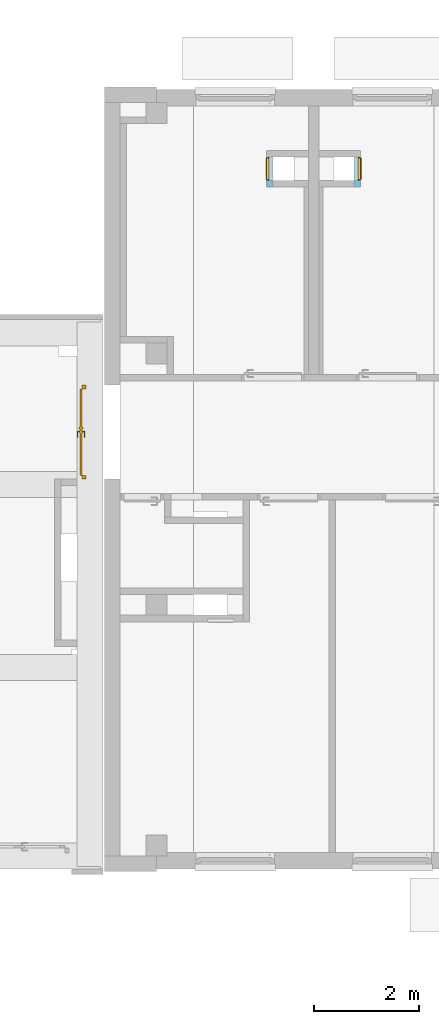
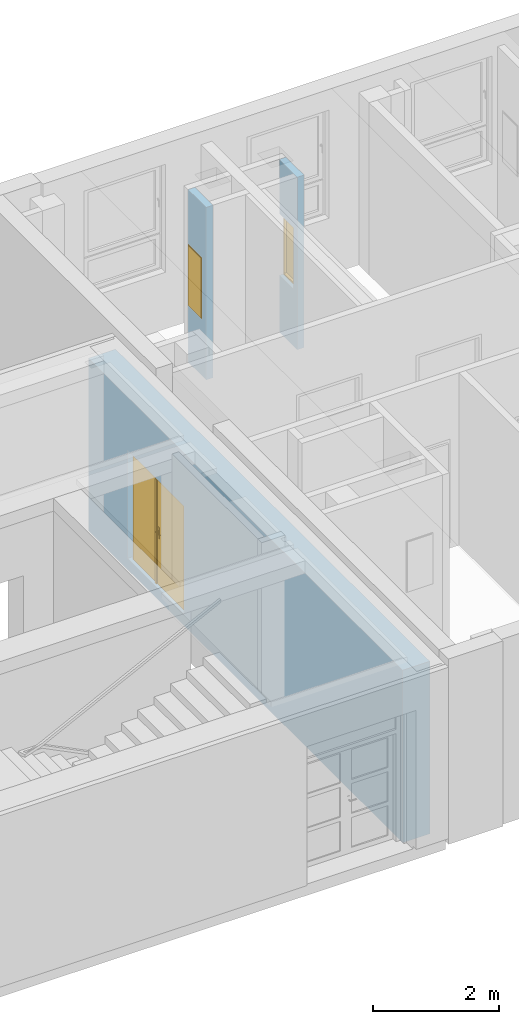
# One storey, part 62 of 140: 2 windows, 1 door, 3 openings, plus 3 elements that do not belong to this part.
"""IFC4 building model written with IfcOpenShell, lengths in metres."""

from ifc_helpers import new_model, entity, si_unit, converted_unit, derived_unit, frame, frame_2d, origin, origin_with_axes, place, context, subcontext, project, spatial, polyline, rectangle, outline, extrude, closed_shell, open_shell, faceted_brep, surface_model, source, transform, mapped, material, layer, layer_set, layer_usage, type_object, element, fill, save


model = new_model("IFC4")

# Units and contexts
model_context = context("Model", 3, precision=1e-05, world=origin())
body_context = subcontext(model_context, "Body", "Model", "MODEL_VIEW")
ifc_project = project(units=[si_unit("LENGTHUNIT", "METRE"), si_unit("AREAUNIT", "SQUARE_METRE"), si_unit("VOLUMEUNIT", "CUBIC_METRE"), si_unit("MASSUNIT", "GRAM", prefix="KILO"), converted_unit("PLANEANGLEUNIT", "DEGREE", entity("IfcPlaneAngleMeasure", 0.0174532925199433), si_unit("PLANEANGLEUNIT", "RADIAN"), dimensions=[0, 0, 0, 0, 0, 0, 0]), derived_unit("THERMALTRANSMITTANCEUNIT", [(si_unit("POWERUNIT", "WATT"), 1), (si_unit("THERMODYNAMICTEMPERATUREUNIT", "KELVIN"), -1), (si_unit("LENGTHUNIT", "METRE"), -2)]), derived_unit("VOLUMETRICFLOWRATEUNIT", [(si_unit("LENGTHUNIT", "METRE"), 3), (converted_unit("TIMEUNIT", "hour", entity("IfcTimeMeasure", 3600.0), si_unit("TIMEUNIT", "SECOND"), dimensions=[0, 0, 1, 0, 0, 0, 0]), -1), (si_unit("LENGTHUNIT", "METRE"), -1)])], contexts=[model_context])

# Site, building, storey
site_placement = place(None, origin())
site = spatial("IfcSite", under=ifc_project, at=site_placement, Name="3. ASŘ", CompositionType="ELEMENT")
building_placement = place(site_placement, origin())
building = spatial("IfcBuilding", under=site, at=building_placement, Name="Pavilon C", CompositionType="ELEMENT")
storey_placement = place(building_placement, origin())
storey = spatial("IfcBuildingStorey", under=building, at=storey_placement, Name="Půdorys 1.NP", CompositionType="ELEMENT", Elevation=0.0)

# Wall, opening, door
ifc_material_1 = material(Name="ZDIVO Z CDm")
ifc_layer_1 = layer(ifc_material_1, 0.5)
ifc_layer_set_1 = layer_set([ifc_layer_1])
ifc_layer_usage_1 = layer_usage(ifc_layer_set_1, "AXIS2", "POSITIVE", 0.0)
wall_1_placement = place(storey_placement, frame((-1.025, 0.850000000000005, -0.22), z_axis=(0.0, 0.0, 1.0), x_axis=(7.27595761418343e-16, 1.0, 0.0)))
wall_1 = element("IfcWall", 1, at=wall_1_placement, inside=storey, material=ifc_layer_usage_1, Name="ZDIVO Z CDm", context=body_context, shape_type="SweptSolid", body=[
    extrude(rectangle(XDim=10.0, YDim=0.5, at=frame_2d((5.0, 0.25), x_axis=(1.0, 0.0))), origin_with_axes(), (0.0, 0.0, 1.0), 3.35),
])
opening_1_placement = place(wall_1_placement, frame((8.75, 0.5, 0.22), z_axis=(0.0, -1.0, 0.0), x_axis=(0.0, 0.0, 1.0)))
opening_1 = element("IfcOpeningElement", 2, at=opening_1_placement, cuts=wall_1, Name="Dveřní otvor", ObjectType="Opening", context=body_context, shape_type="SweptSolid", body=[
    extrude(outline(polyline([(0.0, 1.8), (2.1, 1.8), (2.1, 0.0), (0.0, 0.0), (0.0, 1.8)])), origin_with_axes(), (0.0, 0.0, 1.0), 0.5),
])
door_type = type_object("IfcDoorType", Name="D401", OperationType="NOTDEFINED", ParameterTakesPrecedence=False, PredefinedType="DOOR")
shared_shape_1 = source(origin_with_axes(), body_context, "Body", "SurfaceModel", [
    surface_model("IfcShellBasedSurfaceModel", [(0.0, 0.0750000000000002, 2.1), (0.0, 0.075, -4.59242549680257e-18), (0.075, 0.075, -4.59242549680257e-18), (0.075, 0.0750000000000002, 2.1), (0.0, 0.0, 4.59242549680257e-18), (0.0, 2.55795384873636e-16, 2.1), (0.075, 2.55795384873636e-16, 2.1), (0.075, 0.0, 4.59242549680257e-18)], [closed_shell([[[0, 1, 2, 3]], [[4, 5, 6, 7]], [[1, 0, 5, 4]], [[2, 1, 4, 7]], [[3, 2, 7, 6]], [[0, 3, 6, 5]]], orient=[[False], [False], [False], [False], [False], [False]])]),
    surface_model("IfcShellBasedSurfaceModel", [(1.725, 0.0750000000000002, 2.1), (1.725, 0.075, -4.59242549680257e-18), (1.8, 0.075, -4.59242549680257e-18), (1.8, 0.0750000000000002, 2.1), (1.725, 0.0, 4.59242549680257e-18), (1.725, 2.55795384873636e-16, 2.1), (1.8, 2.55795384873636e-16, 2.1), (1.8, 0.0, 4.59242549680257e-18)], [closed_shell([[[0, 1, 2, 3]], [[4, 5, 6, 7]], [[1, 0, 5, 4]], [[2, 1, 4, 7]], [[3, 2, 7, 6]], [[0, 3, 6, 5]]], orient=[[False], [False], [False], [False], [False], [False]])]),
    surface_model("IfcShellBasedSurfaceModel", [(0.075, 0.0750000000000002, 2.1), (0.075, 0.0750000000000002, 2.025), (1.725, 0.0750000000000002, 2.025), (1.725, 0.0750000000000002, 2.1), (0.075, 2.41584530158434e-16, 2.025), (0.075, 2.55795384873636e-16, 2.1), (1.725, 2.55795384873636e-16, 2.1), (1.725, 2.41584530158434e-16, 2.025)], [closed_shell([[[0, 1, 2, 3]], [[4, 5, 6, 7]], [[1, 0, 5, 4]], [[2, 1, 4, 7]], [[3, 2, 7, 6]], [[0, 3, 6, 5]]], orient=[[False], [False], [False], [False], [False], [False]])]),
    surface_model("IfcShellBasedSurfaceModel", [(0.075, 0.115, 2.025), (0.075, 0.115, -9.49101269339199e-18), (0.824, 0.115, -9.49101269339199e-18), (0.824, 0.115, 2.025), (0.075, 0.075, -4.59242549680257e-18), (0.075, 0.0750000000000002, 2.025), (0.824, 0.0750000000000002, 2.025), (0.824, 0.075, -4.59242549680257e-18)], [closed_shell([[[0, 1, 2, 3]], [[4, 5, 6, 7]], [[1, 0, 5, 4]], [[2, 1, 4, 7]], [[3, 2, 7, 6]], [[0, 3, 6, 5]]], orient=[[False], [False], [False], [False], [False], [False]])]),
    surface_model("IfcShellBasedSurfaceModel", [(0.804, 0.115, 2.025), (0.844, 0.115, 2.025), (0.844, 0.115, -9.49101269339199e-18), (0.804, 0.115, -9.49101269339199e-18), (0.804, 0.135, -1.19403062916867e-17), (0.844, 0.135, -1.19403062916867e-17), (0.844, 0.135, 2.025), (0.804, 0.135, 2.025)], [closed_shell([[[0, 1, 2, 3]], [[4, 5, 6, 7]], [[3, 4, 7, 0]], [[2, 5, 4, 3]], [[1, 6, 5, 2]], [[0, 7, 6, 1]]], orient=[[False], [False], [False], [False], [False], [False]])]),
    surface_model("IfcShellBasedSurfaceModel", [(0.825, 0.115, 2.025), (0.825, 0.115, -9.49101269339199e-18), (1.725, 0.115, -9.49101269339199e-18), (1.725, 0.115, 2.025), (0.825, 0.075, -4.59242549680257e-18), (0.825, 0.0750000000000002, 2.025), (1.725, 0.0750000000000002, 2.025), (1.725, 0.075, -4.59242549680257e-18)], [closed_shell([[[0, 1, 2, 3]], [[4, 5, 6, 7]], [[1, 0, 5, 4]], [[2, 1, 4, 7]], [[3, 2, 7, 6]], [[0, 3, 6, 5]]], orient=[[False], [False], [False], [False], [False], [False]])]),
    surface_model("IfcShellBasedSurfaceModel", [(0.805, 0.0750000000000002, 2.025), (0.805, 0.075, -4.59242549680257e-18), (0.845, 0.075, -4.59242549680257e-18), (0.845, 0.0750000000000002, 2.025), (0.805, 0.055, -2.14313189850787e-18), (0.805, 0.0550000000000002, 2.025), (0.845, 0.0550000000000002, 2.025), (0.845, 0.055, -2.14313189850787e-18)], [closed_shell([[[0, 1, 2, 3]], [[4, 5, 6, 7]], [[1, 0, 5, 4]], [[2, 1, 4, 7]], [[3, 2, 7, 6]], [[0, 3, 6, 5]]], orient=[[False], [False], [False], [False], [False], [False]])]),
    surface_model("IfcShellBasedSurfaceModel", [(0.865, 0.0750000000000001, 1.125), (0.865, 0.0750000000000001, 0.91), (0.915, 0.0750000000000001, 0.91), (0.915, 0.0750000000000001, 1.125), (0.865, 0.0650000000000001, 0.91), (0.865, 0.0650000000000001, 1.125), (0.915, 0.0650000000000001, 1.125), (0.915, 0.0650000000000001, 0.91)], [closed_shell([[[0, 1, 2, 3]], [[4, 5, 6, 7]], [[1, 0, 5, 4]], [[2, 1, 4, 7]], [[3, 2, 7, 6]], [[0, 3, 6, 5]]], orient=[[False], [False], [False], [False], [False], [False]])]),
    surface_model("IfcShellBasedSurfaceModel", [(0.89, 0.0650000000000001, 1.06), (0.885, 0.0650000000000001, 1.05866025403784), (0.881339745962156, 0.0650000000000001, 1.055), (0.88, 0.0650000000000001, 1.05), (0.881339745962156, 0.0650000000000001, 1.045), (0.885, 0.0650000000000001, 1.04133974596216), (0.89, 0.0650000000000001, 1.04), (0.895, 0.0650000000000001, 1.04133974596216), (0.898660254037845, 0.0650000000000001, 1.045), (0.9, 0.0650000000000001, 1.05), (0.898660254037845, 0.0650000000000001, 1.055), (0.895, 0.0650000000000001, 1.05866025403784), (0.89, 0.0250000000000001, 1.06), (0.885, 0.0200000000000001, 1.05866025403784), (0.881339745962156, 0.0163397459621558, 1.055), (0.88, 0.0150000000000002, 1.05), (0.881339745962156, 0.0163397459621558, 1.045), (0.885, 0.0200000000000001, 1.04133974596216), (0.89, 0.0250000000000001, 1.04), (0.895, 0.0300000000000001, 1.04133974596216), (0.898660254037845, 0.0336602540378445, 1.045), (0.9, 0.0350000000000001, 1.05), (0.898660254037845, 0.0336602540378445, 1.055), (0.895, 0.0300000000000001, 1.05866025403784), (1.005, 0.0250000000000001, 1.06), (1.005, 0.0200000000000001, 1.05866025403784), (1.005, 0.0163397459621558, 1.055), (1.005, 0.0150000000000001, 1.05), (1.005, 0.0163397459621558, 1.045), (1.005, 0.0200000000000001, 1.04133974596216), (1.005, 0.0250000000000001, 1.04), (1.005, 0.0300000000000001, 1.04133974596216), (1.005, 0.0336602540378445, 1.045), (1.005, 0.0350000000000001, 1.05), (1.005, 0.0336602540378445, 1.055), (1.005, 0.0300000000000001, 1.05866025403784)], [open_shell([[[0, 1, 2, 3, 4, 5, 6, 7, 8, 9, 10, 11]], [[0, 12, 13, 1]], [[1, 13, 14, 2]], [[2, 14, 15, 3]], [[3, 15, 16, 4]], [[4, 16, 17, 5]], [[5, 17, 18, 6]], [[6, 18, 19, 7]], [[7, 19, 20, 8]], [[8, 20, 21, 9]], [[9, 21, 22, 10]], [[10, 22, 23, 11]], [[11, 23, 12, 0]], [[12, 24, 25, 13]], [[13, 25, 26, 14]], [[14, 26, 27, 15]], [[15, 27, 28, 16]], [[16, 28, 29, 17]], [[17, 29, 30, 18]], [[18, 30, 31, 19]], [[19, 31, 32, 20]], [[20, 32, 33, 21]], [[21, 33, 34, 22]], [[22, 34, 35, 23]], [[23, 35, 24, 12]]], orient=[[False], [False], [False], [False], [False], [False], [False], [False], [False], [False], [False], [False], [False], [False], [False], [False], [False], [False], [False], [False], [False], [False], [False], [False], [False]])]),
    surface_model("IfcShellBasedSurfaceModel", [(0.865, 0.115, 1.125), (0.915, 0.115, 1.125), (0.915, 0.115, 0.91), (0.865, 0.115, 0.91), (0.865, 0.125, 0.91), (0.915, 0.125, 0.91), (0.915, 0.125, 1.125), (0.865, 0.125, 1.125)], [closed_shell([[[0, 1, 2, 3]], [[4, 5, 6, 7]], [[3, 4, 7, 0]], [[2, 5, 4, 3]], [[1, 6, 5, 2]], [[0, 7, 6, 1]]], orient=[[False], [False], [False], [False], [False], [False]])]),
    surface_model("IfcShellBasedSurfaceModel", [(0.89, 0.125, 1.06), (0.895, 0.125, 1.05866025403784), (0.898660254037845, 0.125, 1.055), (0.9, 0.125, 1.05), (0.898660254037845, 0.125, 1.045), (0.895, 0.125, 1.04133974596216), (0.89, 0.125, 1.04), (0.885, 0.125, 1.04133974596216), (0.881339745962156, 0.125, 1.045), (0.88, 0.125, 1.05), (0.881339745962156, 0.125, 1.055), (0.885, 0.125, 1.05866025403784), (0.885, 0.17, 1.05866025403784), (0.89, 0.165, 1.06), (0.881339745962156, 0.173660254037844, 1.055), (0.88, 0.175, 1.05), (0.881339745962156, 0.173660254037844, 1.045), (0.885, 0.17, 1.04133974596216), (0.89, 0.165, 1.04), (0.895, 0.16, 1.04133974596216), (0.898660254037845, 0.156339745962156, 1.045), (0.9, 0.155, 1.05), (0.898660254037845, 0.156339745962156, 1.055), (0.895, 0.16, 1.05866025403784), (1.005, 0.17, 1.05866025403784), (1.005, 0.165, 1.06), (1.005, 0.173660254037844, 1.055), (1.005, 0.175, 1.05), (1.005, 0.173660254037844, 1.045), (1.005, 0.17, 1.04133974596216), (1.005, 0.165, 1.04), (1.005, 0.16, 1.04133974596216), (1.005, 0.156339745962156, 1.045), (1.005, 0.155, 1.05), (1.005, 0.156339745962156, 1.055), (1.005, 0.16, 1.05866025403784)], [open_shell([[[0, 1, 2, 3, 4, 5, 6, 7, 8, 9, 10, 11]], [[0, 11, 12, 13]], [[11, 10, 14, 12]], [[10, 9, 15, 14]], [[9, 8, 16, 15]], [[8, 7, 17, 16]], [[7, 6, 18, 17]], [[6, 5, 19, 18]], [[5, 4, 20, 19]], [[4, 3, 21, 20]], [[3, 2, 22, 21]], [[2, 1, 23, 22]], [[1, 0, 13, 23]], [[13, 12, 24, 25]], [[12, 14, 26, 24]], [[14, 15, 27, 26]], [[15, 16, 28, 27]], [[16, 17, 29, 28]], [[17, 18, 30, 29]], [[18, 19, 31, 30]], [[19, 20, 32, 31]], [[20, 21, 33, 32]], [[21, 22, 34, 33]], [[22, 23, 35, 34]], [[23, 13, 25, 35]]], orient=[[False], [False], [False], [False], [False], [False], [False], [False], [False], [False], [False], [False], [False], [False], [False], [False], [False], [False], [False], [False], [False], [False], [False], [False], [False]])]),
])
door_placement = place(opening_1_placement, frame((0.0, 3.63797880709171e-15, 0.175), z_axis=(1.0, 0.0, 0.0), x_axis=(0.0, 0.999999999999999, 6.05131081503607e-16)))
door = element("IfcDoor", 3, at=door_placement, inside=storey, type_object=door_type, Name="D401", OverallHeight=2.1, OverallWidth=1.8, context=body_context, shape_type="MappedRepresentation", body=[
    mapped(shared_shape_1, transform((0.0, 0.0, 0.0), x_axis=(1.0, 0.0, 0.0), y_axis=(0.0, -1.0, 0.0), z_axis=(0.0, 0.0, 1.0), scale=0.999999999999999)),
])
fill(opening_1, door)

# Wall, opening, window
ifc_material_2 = material(Name="ZDIVO Z CDm")
ifc_layer_2 = layer(ifc_material_2, 0.125)
ifc_layer_set_2 = layer_set([ifc_layer_2])
ifc_layer_usage_2 = layer_usage(ifc_layer_set_2, "AXIS2", "POSITIVE", 0.0)
wall_2_placement = place(storey_placement, frame((3.77500000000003, 13.955, -0.1), z_axis=(0.0, 0.0, 1.0), x_axis=(0.0, -1.0, 0.0)))
wall_2 = element("IfcWall", 4, at=wall_2_placement, inside=storey, material=ifc_layer_usage_2, Name="ZDIVO Z CDm", context=body_context, shape_type="SweptSolid", body=[
    extrude(rectangle(XDim=0.575, YDim=0.125, at=frame_2d((0.2875, 0.0625), x_axis=(1.0, 0.0))), origin_with_axes(), (0.0, 0.0, 1.0), 3.35),
])
opening_2_placement = place(wall_2_placement, frame((0.450000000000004, 0.125, 1.1), z_axis=(0.0, -1.0, 0.0), x_axis=(0.0, 0.0, 1.0)))
opening_2 = element("IfcOpeningElement", 5, at=opening_2_placement, cuts=wall_2, Name="Okenní otvor", ObjectType="Opening", context=body_context, shape_type="SweptSolid", body=[
    extrude(outline(polyline([(0.0, 0.450000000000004), (1.2, 0.450000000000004), (1.2, 0.0), (0.0, 0.0), (0.0, 0.450000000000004)])), origin_with_axes(), (0.0, 0.0, 1.0), 0.125),
])
shared_shape_2 = source(origin_with_axes(), body_context, "Body", "Brep", [
    faceted_brep([(0.0, 0.0600000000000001, 1.2), (0.0, 0.06, 4.91096680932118e-19), (0.02, 0.06, 4.91096680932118e-19), (0.02, 0.0600000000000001, 1.2), (0.0, 0.01, 6.61433067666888e-18), (0.0, 0.0100000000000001, 1.2), (0.02, 0.0100000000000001, 1.2), (0.02, 0.01, 6.61433067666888e-18)], [[[0, 1, 2, 3]], [[4, 5, 6, 7]], [[1, 0, 5, 4]], [[2, 1, 4, 7]], [[3, 2, 7, 6]], [[0, 3, 6, 5]]], orient=[[False], [False], [False], [False], [False], [False]]),
    faceted_brep([(0.43, 0.0600000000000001, 1.2), (0.43, 0.06, 4.91096680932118e-19), (0.45, 0.06, 4.91096680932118e-19), (0.45, 0.0600000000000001, 1.2), (0.43, 0.01, 6.61433067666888e-18), (0.43, 0.0100000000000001, 1.2), (0.45, 0.0100000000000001, 1.2), (0.45, 0.01, 6.61433067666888e-18)], [[[0, 1, 2, 3]], [[4, 5, 6, 7]], [[1, 0, 5, 4]], [[2, 1, 4, 7]], [[3, 2, 7, 6]], [[0, 3, 6, 5]]], orient=[[False], [False], [False], [False], [False], [False]]),
    faceted_brep([(0.02, 0.06, 0.02), (0.02, 0.06, 4.91096680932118e-19), (0.43, 0.06, 4.91096680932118e-19), (0.43, 0.06, 0.02), (0.02, 0.01, 6.61433067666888e-18), (0.02, 0.01, 0.02), (0.43, 0.01, 0.02), (0.43, 0.01, 6.61433067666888e-18)], [[[0, 1, 2, 3]], [[4, 5, 6, 7]], [[1, 0, 5, 4]], [[2, 1, 4, 7]], [[3, 2, 7, 6]], [[0, 3, 6, 5]]], orient=[[False], [False], [False], [False], [False], [False]]),
    faceted_brep([(0.02, 0.0600000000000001, 1.2), (0.02, 0.0600000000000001, 1.18), (0.43, 0.0600000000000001, 1.18), (0.43, 0.0600000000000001, 1.2), (0.02, 0.0100000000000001, 1.18), (0.02, 0.0100000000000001, 1.2), (0.43, 0.0100000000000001, 1.2), (0.43, 0.0100000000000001, 1.18)], [[[0, 1, 2, 3]], [[4, 5, 6, 7]], [[1, 0, 5, 4]], [[2, 1, 4, 7]], [[3, 2, 7, 6]], [[0, 3, 6, 5]]], orient=[[False], [False], [False], [False], [False], [False]]),
    faceted_brep([(0.02, 0.0100000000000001, 1.18), (0.02, 0.01, 0.02), (0.43, 0.01, 0.02), (0.43, 0.0100000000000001, 1.18), (0.02, 0.0, 0.02), (0.02, 1.4210854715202e-16, 1.18), (0.43, 1.4210854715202e-16, 1.18), (0.43, 0.0, 0.02)], [[[0, 1, 2, 3]], [[4, 5, 6, 7]], [[1, 0, 5, 4]], [[2, 1, 4, 7]], [[3, 2, 7, 6]], [[0, 3, 6, 5]]], orient=[[False], [False], [False], [False], [False], [False]]),
])
window_1_placement = place(opening_2_placement, frame((0.0, 0.45, -0.00999999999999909), z_axis=(1.0, 0.0, 0.0), x_axis=(0.0, -1.0, 1.22464679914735e-16)))
window_1 = element("IfcWindow", 6, at=window_1_placement, inside=storey, Name="O01", OverallHeight=1.2, OverallWidth=0.45, PartitioningType="USERDEFINED", PredefinedType="WINDOW", context=body_context, shape_type="MappedRepresentation", body=[
    mapped(shared_shape_2, transform((0.0, 0.0, 0.0), x_axis=(1.0, 0.0, 0.0), y_axis=(0.0, -1.0, 0.0), z_axis=(0.0, 0.0, 1.0), scale=1.0)),
])
fill(opening_2, window_1)

ifc_material_3 = material(Name="ZDIVO Z CDm")
ifc_layer_3 = layer(ifc_material_3, 0.125)
ifc_layer_set_3 = layer_set([ifc_layer_3])
ifc_layer_usage_3 = layer_usage(ifc_layer_set_3, "AXIS2", "POSITIVE", 0.0)
wall_3_placement = place(storey_placement, frame((2.22500000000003, 13.38, -0.1), z_axis=(0.0, 0.0, 1.0), x_axis=(0.0, 1.0, 0.0)))
wall_3 = element("IfcWall", 7, at=wall_3_placement, inside=storey, material=ifc_layer_usage_3, Name="ZDIVO Z CDm", context=body_context, shape_type="SweptSolid", body=[
    extrude(rectangle(XDim=0.575, YDim=0.125, at=frame_2d((0.2875, 0.0625), x_axis=(1.0, 0.0))), origin_with_axes(), (0.0, 0.0, 1.0), 3.35),
])
opening_3_placement = place(wall_3_placement, frame((0.575, 0.125, 1.1), z_axis=(0.0, -1.0, 0.0), x_axis=(0.0, 0.0, 1.0)))
opening_3 = element("IfcOpeningElement", 8, at=opening_3_placement, cuts=wall_3, Name="Okenní otvor", ObjectType="Opening", context=body_context, shape_type="SweptSolid", body=[
    extrude(outline(polyline([(0.0, 0.450000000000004), (1.2, 0.450000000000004), (1.2, 0.0), (0.0, 0.0), (0.0, 0.450000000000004)])), origin_with_axes(), (0.0, 0.0, 1.0), 0.125),
])
shared_shape_3 = source(origin_with_axes(), body_context, "Body", "Brep", [
    faceted_brep([(0.0, 0.0600000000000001, 1.2), (0.0, 0.06, 4.91096680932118e-19), (0.02, 0.06, 4.91096680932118e-19), (0.02, 0.0600000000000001, 1.2), (0.0, 0.01, 6.61433067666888e-18), (0.0, 0.0100000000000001, 1.2), (0.02, 0.0100000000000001, 1.2), (0.02, 0.01, 6.61433067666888e-18)], [[[0, 1, 2, 3]], [[4, 5, 6, 7]], [[1, 0, 5, 4]], [[2, 1, 4, 7]], [[3, 2, 7, 6]], [[0, 3, 6, 5]]], orient=[[False], [False], [False], [False], [False], [False]]),
    faceted_brep([(0.43, 0.0600000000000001, 1.2), (0.43, 0.06, 4.91096680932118e-19), (0.45, 0.06, 4.91096680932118e-19), (0.45, 0.0600000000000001, 1.2), (0.43, 0.01, 6.61433067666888e-18), (0.43, 0.0100000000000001, 1.2), (0.45, 0.0100000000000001, 1.2), (0.45, 0.01, 6.61433067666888e-18)], [[[0, 1, 2, 3]], [[4, 5, 6, 7]], [[1, 0, 5, 4]], [[2, 1, 4, 7]], [[3, 2, 7, 6]], [[0, 3, 6, 5]]], orient=[[False], [False], [False], [False], [False], [False]]),
    faceted_brep([(0.02, 0.06, 0.02), (0.02, 0.06, 4.91096680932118e-19), (0.43, 0.06, 4.91096680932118e-19), (0.43, 0.06, 0.02), (0.02, 0.01, 6.61433067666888e-18), (0.02, 0.01, 0.02), (0.43, 0.01, 0.02), (0.43, 0.01, 6.61433067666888e-18)], [[[0, 1, 2, 3]], [[4, 5, 6, 7]], [[1, 0, 5, 4]], [[2, 1, 4, 7]], [[3, 2, 7, 6]], [[0, 3, 6, 5]]], orient=[[False], [False], [False], [False], [False], [False]]),
    faceted_brep([(0.02, 0.0600000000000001, 1.2), (0.02, 0.0600000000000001, 1.18), (0.43, 0.0600000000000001, 1.18), (0.43, 0.0600000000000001, 1.2), (0.02, 0.0100000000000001, 1.18), (0.02, 0.0100000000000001, 1.2), (0.43, 0.0100000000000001, 1.2), (0.43, 0.0100000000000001, 1.18)], [[[0, 1, 2, 3]], [[4, 5, 6, 7]], [[1, 0, 5, 4]], [[2, 1, 4, 7]], [[3, 2, 7, 6]], [[0, 3, 6, 5]]], orient=[[False], [False], [False], [False], [False], [False]]),
    faceted_brep([(0.02, 0.0100000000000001, 1.18), (0.02, 0.01, 0.02), (0.43, 0.01, 0.02), (0.43, 0.0100000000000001, 1.18), (0.02, 0.0, 0.02), (0.02, 1.4210854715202e-16, 1.18), (0.43, 1.4210854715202e-16, 1.18), (0.43, 0.0, 0.02)], [[[0, 1, 2, 3]], [[4, 5, 6, 7]], [[1, 0, 5, 4]], [[2, 1, 4, 7]], [[3, 2, 7, 6]], [[0, 3, 6, 5]]], orient=[[False], [False], [False], [False], [False], [False]]),
])
window_2_placement = place(opening_3_placement, frame((0.0, 3.63797880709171e-15, -0.0100000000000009), z_axis=(1.0, 0.0, 0.0), x_axis=(0.0, 1.0, 1.22464679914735e-16)))
window_2 = element("IfcWindow", 9, at=window_2_placement, inside=storey, Name="O01", OverallHeight=1.2, OverallWidth=0.45, PartitioningType="USERDEFINED", PredefinedType="WINDOW", context=body_context, shape_type="MappedRepresentation", body=[
    mapped(shared_shape_3, transform((0.0, 0.0, 0.0), x_axis=(1.0, 0.0, 0.0), y_axis=(0.0, 1.0, 0.0), z_axis=(0.0, 0.0, 1.0), scale=1.0)),
])
fill(opening_3, window_2)

save(model, "model.ifc")
